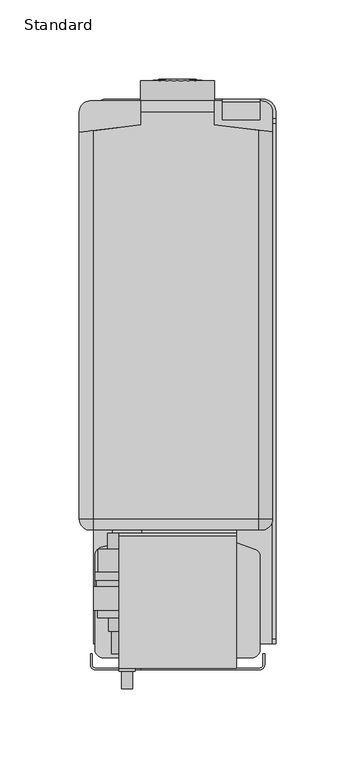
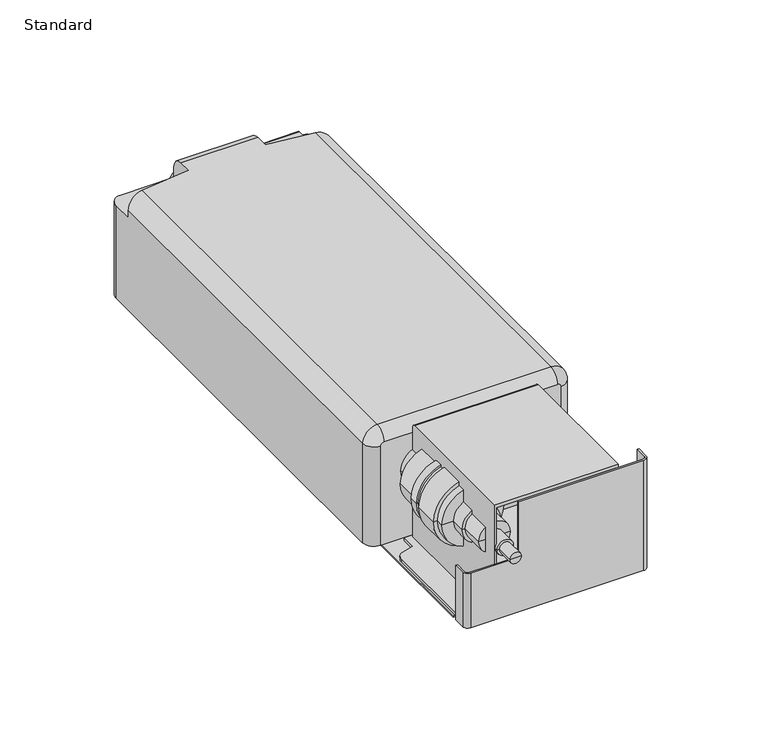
"""IFC4 building model written with IfcOpenShell, lengths in millimetres: proxy geometry, X_Soap Dispenser-Wall-Duracube-Automatic BMSD : Standard."""

import ifcopenshell
import ifcopenshell.guid

model = None  # the IFC model being written
_history = None  # IfcOwnerHistory: only IFC2X3 demands one
_inside = {}  # id of a spatial element -> (the spatial element, [elements in it])
_under = {}  # id of a project, library or spatial element -> (it, [spatial elements below it])
_declared = {}  # id of a project -> (the project, [libraries it declares])
_typed = {}  # id of a type object -> (the type object, [elements of that type])
_made_of = {}  # id of a material, layer set ... -> (it, [elements and type objects made of it])


def new_model(schema):
    """Start an empty IFC model of exactly this schema.

    Asked for "IFC4X3", IfcOpenShell would pick the latest addendum, in which some entities
    have other attributes; the version numbers below select the first issue.
    IFC2X3 requires an IfcOwnerHistory on every rooted entity: one is made here for all.
    """
    global model, _history
    if schema == "IFC4X3":
        model = ifcopenshell.file(schema_version=(4, 3, 0, 0))
    else:
        model = ifcopenshell.file(schema=schema)
    _inside.clear()
    _under.clear()
    _declared.clear()
    _typed.clear()
    _made_of.clear()
    _history = None
    if model.schema == "IFC2X3":
        org = make("IfcOrganization", Name="unknown")
        user = make(
            "IfcPersonAndOrganization",
            ThePerson=make("IfcPerson", FamilyName="unknown"),
            TheOrganization=org,
        )
        app = make(
            "IfcApplication",
            ApplicationDeveloper=org,
            Version="unknown",
            ApplicationFullName="unknown",
            ApplicationIdentifier="unknown",
        )
        _history = make(
            "IfcOwnerHistory",
            OwningUser=user,
            OwningApplication=app,
            ChangeAction="ADDED",
            CreationDate=0,
        )
    return model


def make(cls, **values):
    """One entity of the class cls with the attributes given. An attribute that is None is left unset."""
    return model.create_entity(
        cls, **{name: value for name, value in values.items() if value is not None}
    )


def rooted(cls, **values):
    """An entity with a GlobalId (a new one), such as an element, a storey or a relation."""
    return make(cls, GlobalId=ifcopenshell.guid.new(), OwnerHistory=_history, **values)


def si_unit(unit_type, name, prefix=None):
    """IfcSIUnit, for example si_unit("LENGTHUNIT", "METRE", prefix="MILLI")."""
    return make("IfcSIUnit", UnitType=unit_type, Prefix=prefix, Name=name)


def assignment(units):
    """IfcUnitAssignment: the units of a project."""
    return None if units is None else make("IfcUnitAssignment", Units=units)


def point(xyz):
    """IfcCartesianPoint."""
    return None if xyz is None else make("IfcCartesianPoint", Coordinates=xyz)


def direction(xyz):
    """IfcDirection."""
    return None if xyz is None else make("IfcDirection", DirectionRatios=xyz)


def frame(location, z_axis=None, x_axis=None):
    """IfcAxis2Placement3D, a coordinate frame: its origin and axes. An axis left out is left unset."""
    return make(
        "IfcAxis2Placement3D",
        Location=point(location),
        Axis=direction(z_axis),
        RefDirection=direction(x_axis),
    )


def frame_2d(location, x_axis=None):
    """IfcAxis2Placement2D, a coordinate frame in the plane: its origin and x axis."""
    return make(
        "IfcAxis2Placement2D", Location=point(location), RefDirection=direction(x_axis)
    )


def origin():
    """The frame at (0, 0, 0) with its axes left unset."""
    return frame((0.0, 0.0, 0.0))


def origin_with_axes():
    """The frame at (0, 0, 0) with the z axis (0, 0, 1) and the x axis (1, 0, 0) written out."""
    return frame((0.0, 0.0, 0.0), z_axis=(0.0, 0.0, 1.0), x_axis=(1.0, 0.0, 0.0))


def place(relative_to, where):
    """IfcLocalPlacement: puts the frame where relative to a parent placement (None: the world)."""
    return make(
        "IfcLocalPlacement", PlacementRelTo=relative_to, RelativePlacement=where
    )


def context(
    kind, dimensions, precision=None, world=None, true_north=None, identifier=None
):
    """IfcGeometricRepresentationContext, for example the 3D "Model" context."""
    return make(
        "IfcGeometricRepresentationContext",
        ContextIdentifier=identifier,
        ContextType=kind,
        CoordinateSpaceDimension=dimensions,
        Precision=precision,
        WorldCoordinateSystem=world,
        TrueNorth=true_north,
    )


def project(units=None, contexts=None):
    """IfcProject with its units and contexts."""
    return rooted(
        "IfcProject",
        Name="project",
        RepresentationContexts=contexts,
        UnitsInContext=assignment(units),
    )


def spatial(cls, under=None, at=None, **own):
    """A site, building, storey or space (cls), placed at a placement, below another one or the project."""
    s = rooted(cls, ObjectPlacement=at, **own)
    if under is not None:
        _under.setdefault(under.id(), (under, []))[1].append(s)
    return s


def polyline(points):
    """IfcPolyline through the points."""
    return make("IfcPolyline", Points=[point(p) for p in points])


def circle_curve(where, radius):
    """IfcCircle in the frame where."""
    return make("IfcCircle", Position=where, Radius=radius)


def ellipse_curve(where, semi_axis1, semi_axis2):
    """IfcEllipse in the frame where."""
    return make(
        "IfcEllipse", Position=where, SemiAxis1=semi_axis1, SemiAxis2=semi_axis2
    )


def trimmed(basis, trim1, trim2, sense, master):
    """IfcTrimmedCurve: the piece of a basis curve between two trims."""
    return make(
        "IfcTrimmedCurve",
        BasisCurve=basis,
        Trim1=trim1,
        Trim2=trim2,
        SenseAgreement=sense,
        MasterRepresentation=master,
    )


def segment(curve, same_sense, transition):
    """IfcCompositeCurveSegment."""
    return make(
        "IfcCompositeCurveSegment",
        Transition=transition,
        SameSense=same_sense,
        ParentCurve=curve,
    )


def composite_curve(segments, self_intersect=None):
    """IfcCompositeCurve: segments joined end to end."""
    return make("IfcCompositeCurve", Segments=segments, SelfIntersect=self_intersect)


def outline(outer, holes=None, kind="AREA"):
    """IfcArbitraryClosedProfileDef: a profile drawn as a closed curve; with holes, ...WithVoids."""
    if holes is None:
        return make("IfcArbitraryClosedProfileDef", ProfileType=kind, OuterCurve=outer)
    return make(
        "IfcArbitraryProfileDefWithVoids",
        ProfileType=kind,
        OuterCurve=outer,
        InnerCurves=holes,
    )


def extrude(swept, where, along, depth):
    """IfcExtrudedAreaSolid: the profile swept, set in the frame where, extruded along a direction by depth."""
    return make(
        "IfcExtrudedAreaSolid",
        SweptArea=swept,
        Position=where,
        ExtrudedDirection=direction(along),
        Depth=depth,
    )


def shape(context_of_items, identifier, shape_type, items):
    """IfcShapeRepresentation: the items that make up one representation, for example the "Body"."""
    return make(
        "IfcShapeRepresentation",
        ContextOfItems=context_of_items,
        RepresentationIdentifier=identifier,
        RepresentationType=shape_type,
        Items=items,
    )


def source(mapping_origin, context_of_items, identifier, shape_type, items):
    """IfcRepresentationMap: a shape defined once, which mapped items show again and again."""
    return make(
        "IfcRepresentationMap",
        MappingOrigin=mapping_origin,
        MappedRepresentation=shape(context_of_items, identifier, shape_type, items),
    )


def transform(
    local_origin,
    x_axis=None,
    y_axis=None,
    z_axis=None,
    scale=None,
    scale2=None,
    scale3=None,
    uniform=True,
):
    """IfcCartesianTransformationOperator3D, or its non-uniform kind. x_axis, y_axis, z_axis: its Axis1, 2, 3."""
    if uniform:
        return make(
            "IfcCartesianTransformationOperator3D",
            Axis1=direction(x_axis),
            Axis2=direction(y_axis),
            LocalOrigin=point(local_origin),
            Scale=scale,
            Axis3=direction(z_axis),
        )
    return make(
        "IfcCartesianTransformationOperator3DnonUniform",
        Axis1=direction(x_axis),
        Axis2=direction(y_axis),
        LocalOrigin=point(local_origin),
        Scale=scale,
        Axis3=direction(z_axis),
        Scale2=scale2,
        Scale3=scale3,
    )


def mapped(mapping_source, mapping_target):
    """IfcMappedItem: shows the shape of a source again, moved by a transform."""
    return make(
        "IfcMappedItem", MappingSource=mapping_source, MappingTarget=mapping_target
    )


def made_of(thing, what):
    """Note that an element or type object is made of a material, layer set ...; save() writes the relation."""
    if what is not None:
        _made_of.setdefault(what.id(), (what, []))[1].append(thing)
    return thing


def element(
    cls,
    number,
    at=None,
    inside=None,
    cuts=None,
    type_object=None,
    material=None,
    context=None,
    identifier="Body",
    shape_type=None,
    held_by="IfcProductDefinitionShape",
    body=None,
    shapes=None,
    **own,
):
    """One element of the class cls, such as IfcWall. Its Tag is "e" and its number.

    at: its placement. inside: the storey or other place that contains it. cuts: it is an
    opening in that element (IfcRelVoidsElement). A single representation is given by context,
    identifier, shape_type and body (its items); several are given by shapes. held_by: the class
    of the entity that holds the representations. save() writes the other relations.
    """
    e = rooted(cls, Tag="e%d" % number, ObjectPlacement=at, **own)
    if body is not None:
        shapes = [shape(context, identifier, shape_type, body)]
    if shapes is not None:
        e.Representation = make(held_by, Representations=shapes)
    if inside is not None:
        _inside.setdefault(inside.id(), (inside, []))[1].append(e)
    if cuts is not None:
        rooted(
            "IfcRelVoidsElement", RelatingBuildingElement=cuts, RelatedOpeningElement=e
        )
    if type_object is not None:
        _typed.setdefault(type_object.id(), (type_object, []))[1].append(e)
    return made_of(e, material)


def aggregate(whole, parts):
    """IfcRelAggregates: a whole, such as a stair, and the parts it consists of."""
    return rooted("IfcRelAggregates", RelatingObject=whole, RelatedObjects=parts)


def save(model, path):
    """Write the relations noted so far, then the file.

    IfcRelAggregates (storeys below a building ...), IfcRelContainedInSpatialStructure (elements
    in a storey), IfcRelDefinesByType, IfcRelAssociatesMaterial and IfcRelDeclares: one each for
    every whole, place, type object, material and project.
    """
    for whole, parts in _under.values():
        aggregate(whole, parts)
    for where, things in _inside.values():
        rooted(
            "IfcRelContainedInSpatialStructure",
            RelatedElements=things,
            RelatingStructure=where,
        )
    for kind, things in _typed.values():
        rooted("IfcRelDefinesByType", RelatedObjects=things, RelatingType=kind)
    for what, things in _made_of.values():
        rooted("IfcRelAssociatesMaterial", RelatedObjects=things, RelatingMaterial=what)
    for by, libraries in _declared.values():
        rooted("IfcRelDeclares", RelatingContext=by, RelatedDefinitions=libraries)
    model.write(path)


def plane_surface(at):
    """IfcPlane: the flat surface through the origin of the frame at, square to its z axis."""
    return make("IfcPlane", Position=at)


def cylinder_surface(at, radius):
    """IfcCylindricalSurface: all points at the distance radius from the z axis of the frame at."""
    return make("IfcCylindricalSurface", Position=at, Radius=radius)


def revolved_surface(curve, axis_point, axis_direction):
    """IfcSurfaceOfRevolution: the curve turned about the line through axis_point along axis_direction."""
    return make(
        "IfcSurfaceOfRevolution",
        SweptCurve=make("IfcArbitraryOpenProfileDef", ProfileType="CURVE", Curve=curve),
        AxisPosition=make("IfcAxis1Placement", Location=point(axis_point), Axis=direction(axis_direction)),
    )


def advanced_brep(points, edges, surfaces, faces):
    """IfcAdvancedBrep: a solid bounded by faces that lie on surfaces and meet in shared edges.

    An edge is (start, end): straight between two places in points (the first is 0);
    or (start, end, curve); or (start, end, curve, False) where it runs against its curve.
    A face is (place in surfaces, loops), or (place, loops, False) where it looks against
    its surface's normal. A loop lists edges by number (the first is 1), with a minus sign
    where the edge is run from its end to its start. The first loop is the outer one.
    """
    corners = [point(p) for p in points]
    vertices = [make("IfcVertexPoint", VertexGeometry=c) for c in corners]
    made = []
    for start, end, *more in edges:
        made.append(
            make(
                "IfcEdgeCurve",
                EdgeStart=vertices[start],
                EdgeEnd=vertices[end],
                EdgeGeometry=more[0] if more else make("IfcPolyline", Points=[corners[start], corners[end]]),
                SameSense=more[1] if len(more) > 1 else True,
            )
        )
    hull = []
    for where, loops, *sense in faces:
        bounds = []
        for j, loop in enumerate(loops):
            ring = [make("IfcOrientedEdge", EdgeElement=made[abs(k) - 1], Orientation=k > 0) for k in loop]
            bounds.append(
                make(
                    "IfcFaceOuterBound" if j == 0 else "IfcFaceBound",
                    Bound=make("IfcEdgeLoop", EdgeList=ring),
                    Orientation=True,
                )
            )
        hull.append(make("IfcAdvancedFace", Bounds=bounds, FaceSurface=surfaces[where], SameSense=sense[0] if sense else True))
    return make("IfcAdvancedBrep", Outer=make("IfcClosedShell", CfsFaces=hull))


def standard_f0378506(model_context):
    return source(origin(), model_context, "Body", "SolidModel", [
        advanced_brep(
        [(52.0496867, -180.0, 73.0), (55.0496867, -177.0, 73.0), (55.0496867, -170.0, 73.0), (54.0496867, -170.0, 73.0), (54.0496867, -177.0, 73.0), (52.0496867, -179.0, 73.0), (-23.0637667, -179.0, 73.0), (-23.0637667, -180.0, 73.0), (52.0496867, -180.0, 3.0), (-51.9503133, -180.0, 3.0), (-54.9503133, -177.0, 3.0), (-54.9503133, -170.0, 3.0), (-53.9503133, -170.0, 3.0), (-53.9503133, -177.0, 3.0), (-51.9503133, -179.0, 3.0), (52.0496867, -179.0, 3.0), (54.0496867, -177.0, 3.0), (54.0496867, -170.0, 3.0), (55.0496867, -170.0, 3.0), (55.0496867, -177.0, 3.0), (-51.9503133, -179.0, 37.5), (-23.0637667, -179.0, 37.5), (-53.9503133, -177.0, 37.5), (-53.9503133, -170.0, 37.5), (-54.9503133, -170.0, 37.5), (-54.9503133, -177.0, 37.5), (-51.9503133, -180.0, 37.5), (-23.0637667, -180.0, 37.5)],
        [
            (0, 1, circle_curve(frame((52.0496867, -177.0, 73.0), z_axis=(0.0, 0.0, 1.0), x_axis=(1.0, 0.0, 0.0)), 3.0)),
            (1, 2),
            (2, 3),
            (3, 4),
            (4, 5, circle_curve(frame((52.0496867, -177.0, 73.0), z_axis=(0.0, 0.0, -1.0), x_axis=(1.0, 0.0, 0.0)), 2.0)),
            (5, 6),
            (6, 7),
            (7, 0),
            (8, 9),
            (9, 10, circle_curve(frame((-51.9503133, -177.0, 3.0), z_axis=(0.0, 0.0, -1.0), x_axis=(1.0, 0.0, 0.0)), 3.0)),
            (10, 11),
            (11, 12),
            (12, 13),
            (13, 14, circle_curve(frame((-51.9503133, -177.0, 3.0), z_axis=(0.0, 0.0, 1.0), x_axis=(1.0, 0.0, 0.0)), 2.0)),
            (14, 15),
            (15, 16, circle_curve(frame((52.0496867, -177.0, 3.0), z_axis=(0.0, 0.0, 1.0), x_axis=(1.0, 0.0, 0.0)), 2.0)),
            (16, 17),
            (17, 18),
            (18, 19),
            (19, 8, circle_curve(frame((52.0496867, -177.0, 3.0), z_axis=(0.0, 0.0, -1.0), x_axis=(1.0, 0.0, 0.0)), 3.0)),
            (0, 8),
            (19, 1),
            (18, 2),
            (17, 3),
            (16, 4),
            (15, 5),
            (14, 20),
            (20, 21),
            (21, 6),
            (13, 22),
            (22, 20, circle_curve(frame((-51.9503133, -177.0, 37.5), z_axis=(0.0, 0.0, 1.0), x_axis=(1.0, 0.0, 0.0)), 2.0)),
            (12, 23),
            (23, 22),
            (11, 24),
            (24, 23),
            (10, 25),
            (25, 24),
            (9, 26),
            (26, 25, circle_curve(frame((-51.9503133, -177.0, 37.5), z_axis=(0.0, 0.0, -1.0), x_axis=(1.0, 0.0, 0.0)), 3.0)),
            (7, 27),
            (27, 26),
            (21, 27),
        ],
        [
            plane_surface(frame((55.0496867, -177.0, 73.0), z_axis=(0.0, 0.0, 1.0), x_axis=(0.0, 1.0, 0.0))),
            plane_surface(frame((55.0496867, -177.0, 3.0), z_axis=(0.0, 0.0, -1.0), x_axis=(0.0, -1.0, 0.0))),
            cylinder_surface(frame((52.0496867, -177.0, 3.0), z_axis=(0.0, 0.0, 1.0), x_axis=(1.0, 0.0, 0.0)), 3.0),
            plane_surface(frame((55.0496867, -177.0, 73.0), z_axis=(1.0, 0.0, 0.0), x_axis=(0.0, 0.0, -1.0))),
            plane_surface(frame((55.0496867, -170.0, 73.0), z_axis=(0.0, 1.0, 0.0), x_axis=(0.0, 0.0, -1.0))),
            plane_surface(frame((54.0496867, -170.0, 73.0), z_axis=(-1.0, 0.0, 0.0), x_axis=(0.0, 0.0, -1.0))),
            revolved_surface(polyline([(54.0496867, -177.0, 3.0), (54.0496867, -177.0, 73.0)]), (52.0496867, -177.0, 3.0), (0.0, 0.0, -1.0)),
            plane_surface(frame((52.0496867, -179.0, 73.0), z_axis=(0.0, 1.0, 0.0), x_axis=(0.0, 0.0, -1.0))),
            revolved_surface(polyline([(-49.9503133, -177.0, 3.0), (-49.9503133, -177.0, 37.5)]), (-51.9503133, -177.0, 3.0), (0.0, 0.0, -1.0)),
            plane_surface(frame((-53.9503133, -177.0, 73.0), z_axis=(1.0, 0.0, 0.0), x_axis=(0.0, 0.0, -1.0))),
            plane_surface(frame((-53.9503133, -170.0, 73.0), z_axis=(0.0, 1.0, 0.0), x_axis=(0.0, 0.0, -1.0))),
            plane_surface(frame((-54.9503133, -170.0, 73.0), z_axis=(-1.0, 0.0, 0.0), x_axis=(0.0, 0.0, -1.0))),
            cylinder_surface(frame((-51.9503133, -177.0, 3.0), z_axis=(0.0, 0.0, 1.0), x_axis=(1.0, 0.0, 0.0)), 3.0),
            plane_surface(frame((-51.9503133, -180.0, 73.0), z_axis=(0.0, -1.0, 0.0), x_axis=(0.0, 0.0, -1.0))),
            plane_surface(frame((-23.0637667, -170.0, 75.0), z_axis=(-1.0, 0.0, 0.0), x_axis=(0.0, -1.0, 0.0))),
            plane_surface(frame((-23.0637667, -170.0, 37.5), z_axis=(0.0, 0.0, 1.0), x_axis=(0.0, -1.0, 0.0))),
        ],
        [
            (0, [[1, 2, 3, 4, 5, 6, 7, 8]]),
            (1, [[9, 10, 11, 12, 13, 14, 15, 16, 17, 18, 19, 20]]),
            (2, [[-1, 21, -20, 22]]),
            (3, [[-2, -22, -19, 23]]),
            (4, [[-3, -23, -18, 24]]),
            (5, [[-4, -24, -17, 25]]),
            (6, [[-5, -25, -16, 26]]),
            (7, [[-15, 27, 28, 29, -6, -26]]),
            (8, [[-14, 30, 31, -27]]),
            (9, [[-13, 32, 33, -30]]),
            (10, [[-12, 34, 35, -32]]),
            (11, [[-11, 36, 37, -34]]),
            (12, [[-10, 38, 39, -36]]),
            (13, [[-9, -21, -8, 40, 41, -38]]),
            (14, [[42, -40, -7, -29]]),
            (15, [[-42, -28, -31, -33, -35, -37, -39, -41]]),
        ],
    ),
        extrude(outline(composite_curve([segment(trimmed(circle_curve(frame_2d((-46.9197394, -167.4794833)), 5.0), [point((-46.9197394, -172.4794833))], [point((-51.9197394, -167.4794833))], False, "CARTESIAN"), True, "CONTINUOUS"), segment(polyline([(-51.9197394, -167.4794833), (-51.9197394, -107.8366349)]), True, "CONTINUOUS"), segment(trimmed(circle_curve(frame_2d((-46.9197394, -107.8366349)), 5.0), [point((-51.9197394, -107.8366349))], [point((-48.2138346, -103.0070058))], False, "CARTESIAN"), True, "CONTINUOUS"), segment(polyline([(-48.2138346, -103.0070058), (-40.9493982, -101.0605059), (-40.9493982, -92.0), (37.1797908, -92.0), (37.1797908, -100.0461107), (48.6775275, -104.0050989)]), True, "CONTINUOUS"), segment(trimmed(circle_curve(frame_2d((47.0496867, -108.7326918)), 5.0), [point((48.6775275, -104.0050989))], [point((52.0496867, -108.7326918))], False, "CARTESIAN"), True, "CONTINUOUS"), segment(polyline([(52.0496867, -108.7326918), (52.0496867, -167.4794833)]), True, "CONTINUOUS"), segment(trimmed(circle_curve(frame_2d((47.0496867, -167.4794833)), 5.0), [point((52.0496867, -167.4794833))], [point((47.0496867, -172.4794833))], False, "CARTESIAN"), True, "CONTINUOUS"), segment(polyline([(47.0496867, -172.4794833), (-46.9197394, -172.4794833)]), True, "CONTINUOUS")], self_intersect=False)), frame((0.0, 0.0, 1.0), z_axis=(0.0, 0.0, 1.0), x_axis=(1.0, 0.0, 0.0)), (0.0, 0.0, 1.0), 2.0),
        extrude(outline(composite_curve([segment(polyline([(14.1113165, 179.474207), (54.0, 179.474207)]), True, "CONTINUOUS"), segment(trimmed(circle_curve(frame_2d((54.0, 171.474207)), 8.0), [point((54.0, 179.474207))], [point((62.0, 171.474207))], False, "CARTESIAN"), True, "CONTINUOUS"), segment(polyline([(62.0, 171.474207), (62.0, -163.6786842), (-53.0, -163.6786842), (-53.0, 171.474207)]), True, "CONTINUOUS"), segment(trimmed(circle_curve(frame_2d((-45.0, 171.474207)), 8.0), [point((-53.0, 171.474207))], [point((-45.0, 179.474207))], False, "CARTESIAN"), True, "CONTINUOUS"), segment(polyline([(-45.0, 179.474207), (-14.1113165, 179.474207), (-14.1113165, 189.0)]), True, "CONTINUOUS"), segment(trimmed(circle_curve(frame_2d((-11.1113165, 189.0)), 3.0), [point((-14.1113165, 189.0))], [point((-11.1113165, 192.0))], False, "CARTESIAN"), True, "CONTINUOUS"), segment(polyline([(-11.1113165, 192.0), (11.1113165, 192.0)]), True, "CONTINUOUS"), segment(trimmed(circle_curve(frame_2d((11.1113165, 189.0)), 3.0), [point((11.1113165, 192.0))], [point((14.1113165, 189.0))], False, "CARTESIAN"), True, "CONTINUOUS"), segment(polyline([(14.1113165, 189.0), (14.1113165, 179.474207)]), True, "CONTINUOUS")], self_intersect=False)), origin_with_axes(), (0.0, 0.0, 1.0), 1.0),
        extrude(outline(composite_curve([segment(polyline([(178.474207, 1.0), (178.474207, 63.3136562), (166.474207, 63.3136562), (166.474207, 64.3136562), (177.974207, 64.3136562)]), True, "CONTINUOUS"), segment(trimmed(circle_curve(frame_2d((177.974207, 62.8136562)), 1.5), [point((177.974207, 64.3136562))], [point((179.474207, 62.8136562))], False, "CARTESIAN"), True, "CONTINUOUS"), segment(polyline([(179.474207, 62.8136562), (179.474207, 1.5)]), True, "CONTINUOUS"), segment(trimmed(circle_curve(frame_2d((177.974207, 1.5)), 1.5), [point((179.474207, 1.5))], [point((177.974207, 0.0))], False, "CARTESIAN"), True, "CONTINUOUS"), segment(polyline([(177.974207, 0.0), (167.286782, 0.0), (167.286782, 1.0), (178.474207, 1.0)]), True, "CONTINUOUS")], self_intersect=False)), frame((28.2978962, 0.0, 0.0), z_axis=(1.0, 0.0, 0.0), x_axis=(0.0, 1.0, 0.0)), (0.0, 0.0, 1.0), 23.7021038),
        extrude(outline(composite_curve([segment(trimmed(circle_curve(frame_2d((-160.6786842, 9.0050868)), 3.0), [point((-163.6786842, 9.0050868))], [point((-160.6786842, 12.0050868))], False, "CARTESIAN"), True, "CONTINUOUS"), segment(polyline([(-160.6786842, 12.0050868), (164.286782, 12.0050868)]), True, "CONTINUOUS"), segment(trimmed(circle_curve(frame_2d((164.286782, 9.0050868)), 3.0), [point((164.286782, 12.0050868))], [point((167.286782, 9.0050868))], False, "CARTESIAN"), True, "CONTINUOUS"), segment(polyline([(167.286782, 9.0050868), (167.286782, 0.0), (-163.6786842, 0.0), (-163.6786842, 9.0050868)]), True, "CONTINUOUS")], self_intersect=False)), frame((60.0, 0.0, 0.0), z_axis=(1.0, 0.0, 0.0), x_axis=(0.0, 1.0, 0.0)), (0.0, 0.0, 1.0), 2.0),
        advanced_brep(
        [(-35.9984832, -179.0, 73.0), (-35.9984832, -179.0, 3.0), (-35.9984832, -96.0, 3.0), (-35.9984832, -96.0, 73.0), (-36.9984832, -96.0, 75.0), (-36.9984832, -94.0, 73.0), (-36.9984832, -94.0, 3.0), (-36.9984832, -179.0, 3.0), (-36.9984832, -179.0, 75.0), (36.1797908, -179.0, 73.0), (36.1797908, -179.0, 3.0), (37.1797908, -179.0, 3.0), (37.1797908, -179.0, 75.0), (37.1797908, -94.0, 3.0), (36.1797908, -96.0, 3.0), (37.1797908, -96.0, 75.0), (37.1797908, -94.0, 73.0), (36.1797908, -96.0, 73.0)],
        [
            (0, 1),
            (1, 2),
            (2, 3),
            (3, 0),
            (4, 5, circle_curve(frame((-36.9984832, -96.0, 73.0), z_axis=(-1.0, 0.0, 0.0), x_axis=(0.0, 1.0, 0.0)), 2.0)),
            (5, 6),
            (6, 7),
            (7, 8),
            (8, 4),
            (0, 9),
            (9, 10),
            (10, 11),
            (11, 12),
            (12, 8),
            (7, 1),
            (6, 13),
            (13, 11),
            (10, 14),
            (14, 2),
            (15, 12),
            (13, 16),
            (16, 15, circle_curve(frame((37.1797908, -96.0, 73.0), z_axis=(1.0, 0.0, 0.0), x_axis=(0.0, 1.0, 0.0)), 2.0)),
            (15, 4),
            (3, 17),
            (17, 9),
            (14, 17),
            (5, 16),
        ],
        [
            plane_surface(frame((-35.9984832, -96.0, 75.0), z_axis=(1.0, 0.0, 0.0), x_axis=(0.0, 0.0, 1.0))),
            plane_surface(frame((-36.9984832, -96.0, 75.0), z_axis=(-1.0, 0.0, 0.0), x_axis=(0.0, 0.0, -1.0))),
            plane_surface(frame((-35.9984832, -179.0, 73.0), z_axis=(0.0, -1.0, 0.0), x_axis=(-1.0, 0.0, 0.0))),
            plane_surface(frame((-35.9984832, -179.0, 3.0), z_axis=(0.0, 0.0, -1.0), x_axis=(-1.0, 0.0, 0.0))),
            plane_surface(frame((37.1797908, -180.0, 75.0), z_axis=(1.0, 0.0, 0.0), x_axis=(0.0, -1.0, 0.0))),
            plane_surface(frame((37.1797908, -96.0, 75.0), z_axis=(0.0, 0.0, 1.0), x_axis=(-1.0, 0.0, 0.0))),
            plane_surface(frame((37.1797908, -179.0, 73.0), z_axis=(0.0, 0.0, -1.0), x_axis=(-1.0, 0.0, 0.0))),
            plane_surface(frame((37.1797908, -96.0, 73.0), z_axis=(0.0, -1.0, 0.0), x_axis=(-1.0, 0.0, 0.0))),
            plane_surface(frame((37.1797908, -94.0, 3.0), z_axis=(0.0, 1.0, 0.0), x_axis=(-1.0, 0.0, 0.0))),
            cylinder_surface(frame((-36.9984832, -96.0, 73.0), z_axis=(1.0, 0.0, 0.0), x_axis=(0.0, 1.0, 0.0)), 2.0),
            plane_surface(frame((36.1797908, -96.0, 75.0), z_axis=(-1.0, 0.0, 0.0), x_axis=(0.0, 0.0, -1.0))),
        ],
        [
            (0, [[1, 2, 3, 4]]),
            (1, [[5, 6, 7, 8, 9]]),
            (2, [[-1, 10, 11, 12, 13, 14, -8, 15]]),
            (3, [[-2, -15, -7, 16, 17, -12, 18, 19]]),
            (4, [[20, -13, -17, 21, 22]]),
            (5, [[-20, 23, -9, -14]]),
            (6, [[-4, 24, 25, -10]]),
            (7, [[-3, -19, 26, -24]]),
            (8, [[-21, -16, -6, 27]]),
            (9, [[-22, -27, -5, -23]]),
            (10, [[-18, -11, -25, -26]]),
        ],
    ),
        advanced_brep(
        [(-19.512913, -94.0, 47.65625), (-44.1960982, -94.0, 47.65625), (-40.9493982, -94.0, 47.65625), (-22.759613, -94.0, 47.65625), (-19.512913, -104.0, 47.65625), (-44.1960982, -104.0, 47.65625), (-13.5082634, -104.0, 47.65625), (-50.2007478, -104.0, 47.65625), (-13.5082634, -118.5738192, 47.65625), (-50.2007478, -118.5738192, 47.65625), (-11.6579934, -118.5738192, 47.65625), (-52.0510177, -118.5738192, 47.65625), (-11.6579934, -123.5738192, 47.65625), (-52.0510177, -123.5738192, 47.65625), (-12.7751375, -123.5738192, 47.65625), (-50.9338736, -123.5738192, 47.65625), (-12.7751375, -127.6506151, 47.65625), (-50.9338736, -127.6506151, 47.65625), (-10.8899569, -127.6506151, 47.65625), (-52.8190543, -127.6506151, 47.65625), (-10.8899569, -142.6506151, 47.65625), (-52.8190543, -142.6506151, 47.65625), (-13.1940666, -142.6506151, 47.65625), (-50.5149446, -142.6506151, 47.65625), (-13.1940666, -147.200637, 47.65625), (-50.5149446, -147.200637, 47.65625), (-20.350771, -147.200637, 47.65625), (-43.3582401, -147.200637, 47.65625), (-20.350771, -155.9283253, 47.65625), (-43.3582401, -155.9283253, 47.65625), (-22.2359517, -155.9283253, 47.65625), (-41.4730595, -155.9283253, 47.65625), (-22.2359517, -169.9249192, 47.65625), (-41.4730595, -169.9249192, 47.65625), (-26.9062858, -169.9249192, 47.65625), (-36.8027254, -169.9249192, 47.65625), (-26.9062858, -181.0963603, 47.65625), (-36.8027254, -181.0963603, 47.65625), (-28.3330731, -181.0963603, 47.65625), (-35.3759381, -181.0963603, 47.65625), (-28.3330731, -192.0, 47.65625), (-35.3759381, -192.0, 47.65625), (-31.8545056, -192.0, 47.65625), (-22.759613, -92.0, 47.65625), (-40.9493982, -92.0, 47.65625), (-31.8545056, -92.0, 47.65625)],
        [
            (0, 1, circle_curve(frame((-31.8545056, -94.0, 47.65625), z_axis=(0.0, 1.0, 0.0), x_axis=(-1.0, 0.0, 0.0)), 12.3415926)),
            (1, 2),
            (2, 3, circle_curve(frame((-31.8545056, -94.0, 47.65625), z_axis=(0.0, -1.0, 0.0), x_axis=(-1.0, 0.0, 0.0)), 9.0948926)),
            (3, 0),
            (1, 0, circle_curve(frame((-31.8545056, -94.0, 47.65625), z_axis=(0.0, 1.0, 0.0), x_axis=(-1.0, 0.0, 0.0)), 12.3415926)),
            (3, 2, circle_curve(frame((-31.8545056, -94.0, 47.65625), z_axis=(0.0, -1.0, 0.0), x_axis=(-1.0, 0.0, 0.0)), 9.0948926)),
            (4, 5, circle_curve(frame((-31.8545056, -104.0, 47.65625), z_axis=(0.0, 1.0, 0.0), x_axis=(-1.0, 0.0, 0.0)), 12.3415926)),
            (5, 1),
            (0, 4),
            (5, 4, circle_curve(frame((-31.8545056, -104.0, 47.65625), z_axis=(0.0, 1.0, 0.0), x_axis=(-1.0, 0.0, 0.0)), 12.3415926)),
            (6, 7, circle_curve(frame((-31.8545056, -104.0, 47.65625), z_axis=(0.0, 1.0, 0.0), x_axis=(-1.0, 0.0, 0.0)), 18.3462422)),
            (7, 5),
            (4, 6),
            (7, 6, circle_curve(frame((-31.8545056, -104.0, 47.65625), z_axis=(0.0, 1.0, 0.0), x_axis=(-1.0, 0.0, 0.0)), 18.3462422)),
            (8, 9, circle_curve(frame((-31.8545056, -118.5738192, 47.65625), z_axis=(0.0, 1.0, 0.0), x_axis=(-1.0, 0.0, 0.0)), 18.3462422)),
            (9, 7),
            (6, 8),
            (9, 8, circle_curve(frame((-31.8545056, -118.5738192, 47.65625), z_axis=(0.0, 1.0, 0.0), x_axis=(-1.0, 0.0, 0.0)), 18.3462422)),
            (10, 11, circle_curve(frame((-31.8545056, -118.5738192, 47.65625), z_axis=(0.0, 1.0, 0.0), x_axis=(-1.0, 0.0, 0.0)), 20.1965122)),
            (11, 9),
            (8, 10),
            (11, 10, circle_curve(frame((-31.8545056, -118.5738192, 47.65625), z_axis=(0.0, 1.0, 0.0), x_axis=(-1.0, 0.0, 0.0)), 20.1965122)),
            (12, 13, circle_curve(frame((-31.8545056, -123.5738192, 47.65625), z_axis=(0.0, 1.0, 0.0), x_axis=(-1.0, 0.0, 0.0)), 20.1965122)),
            (13, 11),
            (10, 12),
            (13, 12, circle_curve(frame((-31.8545056, -123.5738192, 47.65625), z_axis=(0.0, 1.0, 0.0), x_axis=(-1.0, 0.0, 0.0)), 20.1965122)),
            (14, 15, circle_curve(frame((-31.8545056, -123.5738192, 47.65625), z_axis=(0.0, 1.0, 0.0), x_axis=(-1.0, 0.0, 0.0)), 19.079368)),
            (15, 13),
            (12, 14),
            (15, 14, circle_curve(frame((-31.8545056, -123.5738192, 47.65625), z_axis=(0.0, 1.0, 0.0), x_axis=(-1.0, 0.0, 0.0)), 19.079368)),
            (16, 17, circle_curve(frame((-31.8545056, -127.6506151, 47.65625), z_axis=(0.0, 1.0, 0.0), x_axis=(-1.0, 0.0, 0.0)), 19.079368)),
            (17, 15),
            (14, 16),
            (17, 16, circle_curve(frame((-31.8545056, -127.6506151, 47.65625), z_axis=(0.0, 1.0, 0.0), x_axis=(-1.0, 0.0, 0.0)), 19.079368)),
            (18, 19, circle_curve(frame((-31.8545056, -127.6506151, 47.65625), z_axis=(0.0, 1.0, 0.0), x_axis=(-1.0, 0.0, 0.0)), 20.9645487)),
            (19, 17),
            (16, 18),
            (19, 18, circle_curve(frame((-31.8545056, -127.6506151, 47.65625), z_axis=(0.0, 1.0, 0.0), x_axis=(-1.0, 0.0, 0.0)), 20.9645487)),
            (20, 21, circle_curve(frame((-31.8545056, -142.6506151, 47.65625), z_axis=(0.0, 1.0, 0.0), x_axis=(-1.0, 0.0, 0.0)), 20.9645487)),
            (21, 19),
            (18, 20),
            (21, 20, circle_curve(frame((-31.8545056, -142.6506151, 47.65625), z_axis=(0.0, 1.0, 0.0), x_axis=(-1.0, 0.0, 0.0)), 20.9645487)),
            (22, 23, circle_curve(frame((-31.8545056, -142.6506151, 47.65625), z_axis=(0.0, 1.0, 0.0), x_axis=(-1.0, 0.0, 0.0)), 18.660439)),
            (23, 21),
            (20, 22),
            (23, 22, circle_curve(frame((-31.8545056, -142.6506151, 47.65625), z_axis=(0.0, 1.0, 0.0), x_axis=(-1.0, 0.0, 0.0)), 18.660439)),
            (24, 25, circle_curve(frame((-31.8545056, -147.200637, 47.65625), z_axis=(0.0, 1.0, 0.0), x_axis=(-1.0, 0.0, 0.0)), 18.660439)),
            (25, 23),
            (22, 24),
            (25, 24, circle_curve(frame((-31.8545056, -147.200637, 47.65625), z_axis=(0.0, 1.0, 0.0), x_axis=(-1.0, 0.0, 0.0)), 18.660439)),
            (26, 27, circle_curve(frame((-31.8545056, -147.200637, 47.65625), z_axis=(0.0, 1.0, 0.0), x_axis=(-1.0, 0.0, 0.0)), 11.5037346)),
            (27, 25),
            (24, 26),
            (27, 26, circle_curve(frame((-31.8545056, -147.200637, 47.65625), z_axis=(0.0, 1.0, 0.0), x_axis=(-1.0, 0.0, 0.0)), 11.5037346)),
            (28, 29, circle_curve(frame((-31.8545056, -155.9283253, 47.65625), z_axis=(0.0, 1.0, 0.0), x_axis=(-1.0, 0.0, 0.0)), 11.5037346)),
            (29, 27),
            (26, 28),
            (29, 28, circle_curve(frame((-31.8545056, -155.9283253, 47.65625), z_axis=(0.0, 1.0, 0.0), x_axis=(-1.0, 0.0, 0.0)), 11.5037346)),
            (30, 31, circle_curve(frame((-31.8545056, -155.9283253, 47.65625), z_axis=(0.0, 1.0, 0.0), x_axis=(-1.0, 0.0, 0.0)), 9.6185539)),
            (31, 29),
            (28, 30),
            (31, 30, circle_curve(frame((-31.8545056, -155.9283253, 47.65625), z_axis=(0.0, 1.0, 0.0), x_axis=(-1.0, 0.0, 0.0)), 9.6185539)),
            (32, 33, circle_curve(frame((-31.8545056, -169.9249192, 47.65625), z_axis=(0.0, 1.0, 0.0), x_axis=(-1.0, 0.0, 0.0)), 9.6185539)),
            (33, 31),
            (30, 32),
            (33, 32, circle_curve(frame((-31.8545056, -169.9249192, 47.65625), z_axis=(0.0, 1.0, 0.0), x_axis=(-1.0, 0.0, 0.0)), 9.6185539)),
            (34, 35, circle_curve(frame((-31.8545056, -169.9249192, 47.65625), z_axis=(0.0, 1.0, 0.0), x_axis=(-1.0, 0.0, 0.0)), 4.9482198)),
            (35, 33),
            (32, 34),
            (35, 34, circle_curve(frame((-31.8545056, -169.9249192, 47.65625), z_axis=(0.0, 1.0, 0.0), x_axis=(-1.0, 0.0, 0.0)), 4.9482198)),
            (36, 37, circle_curve(frame((-31.8545056, -181.0963603, 47.65625), z_axis=(0.0, 1.0, 0.0), x_axis=(-1.0, 0.0, 0.0)), 4.9482198)),
            (37, 35),
            (34, 36),
            (37, 36, circle_curve(frame((-31.8545056, -181.0963603, 47.65625), z_axis=(0.0, 1.0, 0.0), x_axis=(-1.0, 0.0, 0.0)), 4.9482198)),
            (38, 39, circle_curve(frame((-31.8545056, -181.0963603, 47.65625), z_axis=(0.0, 1.0, 0.0), x_axis=(-1.0, 0.0, 0.0)), 3.5214325)),
            (39, 37),
            (36, 38),
            (39, 38, circle_curve(frame((-31.8545056, -181.0963603, 47.65625), z_axis=(0.0, 1.0, 0.0), x_axis=(-1.0, 0.0, 0.0)), 3.5214325)),
            (40, 41, circle_curve(frame((-31.8545056, -192.0, 47.65625), z_axis=(0.0, 1.0, 0.0), x_axis=(-1.0, 0.0, 0.0)), 3.5214325)),
            (41, 39),
            (38, 40),
            (41, 40, circle_curve(frame((-31.8545056, -192.0, 47.65625), z_axis=(0.0, 1.0, 0.0), x_axis=(-1.0, 0.0, 0.0)), 3.5214325)),
            (42, 41),
            (40, 42),
            (43, 44, circle_curve(frame((-31.8545056, -92.0, 47.65625), z_axis=(0.0, 1.0, 0.0), x_axis=(-1.0, 0.0, 0.0)), 9.0948926)),
            (44, 45),
            (45, 43),
            (44, 43, circle_curve(frame((-31.8545056, -92.0, 47.65625), z_axis=(0.0, 1.0, 0.0), x_axis=(-1.0, 0.0, 0.0)), 9.0948926)),
            (2, 44),
            (43, 3),
        ],
        [
            plane_surface(frame((-31.8545056, -94.0, 47.65625), z_axis=(0.0, 1.0, 0.0), x_axis=(-1.0, 0.0, 0.0))),
            cylinder_surface(frame((-31.8545056, -192.0, 47.65625), z_axis=(0.0, -1.0, 0.0), x_axis=(-1.0, 0.0, 0.0)), 12.3415926),
            plane_surface(frame((-31.8545056, -104.0, 47.65625), z_axis=(0.0, 1.0, 0.0), x_axis=(-1.0, 0.0, 0.0))),
            cylinder_surface(frame((-31.8545056, -192.0, 47.65625), z_axis=(0.0, -1.0, 0.0), x_axis=(-1.0, 0.0, 0.0)), 18.3462422),
            plane_surface(frame((-31.8545056, -118.5738192, 47.65625), z_axis=(0.0, 1.0, 0.0), x_axis=(-1.0, 0.0, 0.0))),
            cylinder_surface(frame((-31.8545056, -192.0, 47.65625), z_axis=(0.0, -1.0, 0.0), x_axis=(-1.0, 0.0, 0.0)), 20.1965122),
            plane_surface(frame((-31.8545056, -123.5738192, 47.65625), z_axis=(0.0, -1.0, 0.0), x_axis=(-1.0, 0.0, 0.0))),
            cylinder_surface(frame((-31.8545056, -192.0, 47.65625), z_axis=(0.0, -1.0, 0.0), x_axis=(-1.0, 0.0, 0.0)), 19.079368),
            plane_surface(frame((-31.8545056, -127.6506151, 47.65625), z_axis=(0.0, 1.0, 0.0), x_axis=(-1.0, 0.0, 0.0))),
            cylinder_surface(frame((-31.8545056, -192.0, 47.65625), z_axis=(0.0, -1.0, 0.0), x_axis=(-1.0, 0.0, 0.0)), 20.9645487),
            plane_surface(frame((-31.8545056, -142.6506151, 47.65625), z_axis=(0.0, -1.0, 0.0), x_axis=(-1.0, 0.0, 0.0))),
            cylinder_surface(frame((-31.8545056, -192.0, 47.65625), z_axis=(0.0, -1.0, 0.0), x_axis=(-1.0, 0.0, 0.0)), 18.660439),
            plane_surface(frame((-31.8545056, -147.200637, 47.65625), z_axis=(0.0, -1.0, 0.0), x_axis=(-1.0, 0.0, 0.0))),
            cylinder_surface(frame((-31.8545056, -192.0, 47.65625), z_axis=(0.0, -1.0, 0.0), x_axis=(-1.0, 0.0, 0.0)), 11.5037346),
            plane_surface(frame((-31.8545056, -155.9283253, 47.65625), z_axis=(0.0, -1.0, 0.0), x_axis=(-1.0, 0.0, 0.0))),
            cylinder_surface(frame((-31.8545056, -192.0, 47.65625), z_axis=(0.0, -1.0, 0.0), x_axis=(-1.0, 0.0, 0.0)), 9.6185539),
            plane_surface(frame((-31.8545056, -169.9249192, 47.65625), z_axis=(0.0, -1.0, 0.0), x_axis=(-1.0, 0.0, 0.0))),
            cylinder_surface(frame((-31.8545056, -192.0, 47.65625), z_axis=(0.0, -1.0, 0.0), x_axis=(-1.0, 0.0, 0.0)), 4.9482198),
            plane_surface(frame((-31.8545056, -181.0963603, 47.65625), z_axis=(0.0, -1.0, 0.0), x_axis=(-1.0, 0.0, 0.0))),
            cylinder_surface(frame((-31.8545056, -192.0, 47.65625), z_axis=(0.0, -1.0, 0.0), x_axis=(-1.0, 0.0, 0.0)), 3.5214325),
            plane_surface(frame((-31.8545056, -192.0, 47.65625), z_axis=(0.0, -1.0, 0.0), x_axis=(-1.0, 0.0, 0.0))),
            plane_surface(frame((-31.8545056, -92.0, 47.65625), z_axis=(0.0, 1.0, 0.0), x_axis=(-1.0, 0.0, 0.0))),
            cylinder_surface(frame((-31.8545056, -192.0, 47.65625), z_axis=(0.0, -1.0, 0.0), x_axis=(-1.0, 0.0, 0.0)), 9.0948926),
        ],
        [
            (0, [[1, 2, 3, 4]]),
            (0, [[5, -4, 6, -2]]),
            (1, [[7, 8, -1, 9]]),
            (1, [[10, -9, -5, -8]]),
            (2, [[11, 12, -7, 13]]),
            (2, [[14, -13, -10, -12]]),
            (3, [[15, 16, -11, 17]]),
            (3, [[18, -17, -14, -16]]),
            (4, [[19, 20, -15, 21]]),
            (4, [[22, -21, -18, -20]]),
            (5, [[23, 24, -19, 25]]),
            (5, [[26, -25, -22, -24]]),
            (6, [[27, 28, -23, 29]]),
            (6, [[30, -29, -26, -28]]),
            (7, [[31, 32, -27, 33]]),
            (7, [[34, -33, -30, -32]]),
            (8, [[35, 36, -31, 37]]),
            (8, [[38, -37, -34, -36]]),
            (9, [[39, 40, -35, 41]]),
            (9, [[42, -41, -38, -40]]),
            (10, [[43, 44, -39, 45]]),
            (10, [[46, -45, -42, -44]]),
            (11, [[47, 48, -43, 49]]),
            (11, [[50, -49, -46, -48]]),
            (12, [[51, 52, -47, 53]]),
            (12, [[54, -53, -50, -52]]),
            (13, [[55, 56, -51, 57]]),
            (13, [[58, -57, -54, -56]]),
            (14, [[59, 60, -55, 61]]),
            (14, [[62, -61, -58, -60]]),
            (15, [[63, 64, -59, 65]]),
            (15, [[66, -65, -62, -64]]),
            (16, [[67, 68, -63, 69]]),
            (16, [[70, -69, -66, -68]]),
            (17, [[71, 72, -67, 73]]),
            (17, [[74, -73, -70, -72]]),
            (18, [[75, 76, -71, 77]]),
            (18, [[78, -77, -74, -76]]),
            (19, [[79, 80, -75, 81]]),
            (19, [[82, -81, -78, -80]]),
            (20, [[83, -79, 84]]),
            (20, [[-84, -82, -83]]),
            (21, [[85, 86, 87]]),
            (21, [[88, -87, -86]]),
            (22, [[-3, 89, -85, 90]]),
            (22, [[-6, -90, -88, -89]]),
        ],
    ),
        advanced_brep(
        [(53.0, 178.474207, 3.0), (-55.0, 178.474207, 3.0), (-55.0, 178.474207, 61.4037243), (-23.0637667, 178.474207, 61.4037243), (-23.0637667, 178.474207, 68.0), (23.0637667, 178.474207, 68.0), (23.0637667, 178.474207, 61.4037243), (53.0, 178.474207, 61.4037243), (53.0, -92.0, 3.0), (53.0, -92.0, 66.0), (51.0, -92.0, 68.0), (-53.0, -92.0, 68.0), (-55.0, -92.0, 66.0), (-55.0, -92.0, 3.0), (60.0, 171.474207, 3.0), (60.0, -85.0, 3.0), (-62.0, -85.0, 3.0), (-62.0, 171.474207, 3.0), (60.0, 171.474207, 61.4037243), (60.0, 158.8299215, 61.4037243), (60.0, 158.8299215, 66.0), (60.0, -85.0, 66.0), (-23.0637667, 171.474207, 75.0), (23.0637667, 171.474207, 75.0), (-53.0, -85.0, 75.0), (51.0, -85.0, 75.0), (51.0, 159.9349825, 75.0), (23.0637667, 163.3651207, 75.0), (-23.0637667, 163.3651207, 75.0), (-53.0, 159.6894134, 75.0), (-62.0, 171.474207, 61.4037243), (-62.0, -85.0, 66.0), (-62.0, 158.5843524, 66.0), (-62.0, 158.5843524, 61.4037243), (-23.0637667, 163.3651207, 61.4037243), (23.0637667, 163.3651207, 61.4037243)],
        [
            (0, 1),
            (1, 2),
            (2, 3),
            (3, 4),
            (4, 5),
            (5, 6),
            (6, 7),
            (7, 0),
            (8, 9),
            (9, 10, circle_curve(frame((51.0, -92.0, 66.0), z_axis=(0.0, -1.0, 0.0), x_axis=(1.0, 0.0, 0.0)), 2.0)),
            (10, 11),
            (11, 12, circle_curve(frame((-53.0, -92.0, 66.0), z_axis=(0.0, -1.0, 0.0), x_axis=(0.0, 0.0, 1.0)), 2.0)),
            (12, 13),
            (13, 8),
            (0, 14, circle_curve(frame((53.0, 171.474207, 3.0), z_axis=(0.0, 0.0, -1.0), x_axis=(1.0, 0.0, 0.0)), 7.0)),
            (14, 15),
            (15, 8, circle_curve(frame((53.0, -85.0, 3.0), z_axis=(0.0, 0.0, -1.0), x_axis=(1.0, 0.0, 0.0)), 7.0)),
            (13, 16, circle_curve(frame((-55.0, -85.0, 3.0), z_axis=(0.0, 0.0, -1.0), x_axis=(-1.0, 0.0, 0.0)), 7.0)),
            (16, 17),
            (17, 1, circle_curve(frame((-55.0, 171.474207, 3.0), z_axis=(0.0, 0.0, -1.0), x_axis=(-1.0, 0.0, 0.0)), 7.0)),
            (7, 18, circle_curve(frame((53.0, 171.474207, 61.4037243), z_axis=(0.0, 0.0, -1.0), x_axis=(1.0, 0.0, 0.0)), 7.0)),
            (18, 14),
            (18, 19),
            (19, 20),
            (20, 21),
            (21, 15),
            (21, 9, circle_curve(frame((53.0, -85.0, 66.0), z_axis=(0.0, 0.0, -1.0), x_axis=(1.0, 0.0, 0.0)), 7.0)),
            (4, 22, circle_curve(frame((-23.0637667, 171.474207, 68.0), z_axis=(1.0, 0.0, 0.0), x_axis=(0.0, 0.0, 1.0)), 7.0)),
            (22, 23),
            (23, 5, circle_curve(frame((23.0637667, 171.474207, 68.0), z_axis=(-1.0, 0.0, 0.0), x_axis=(0.0, 0.0, 1.0)), 7.0)),
            (24, 25),
            (25, 26),
            (26, 27),
            (27, 23),
            (22, 28),
            (28, 29),
            (29, 24),
            (10, 25, circle_curve(frame((51.0, -85.0, 68.0), z_axis=(-1.0, 0.0, 0.0), x_axis=(0.0, 0.0, 1.0)), 7.0)),
            (24, 11, circle_curve(frame((-53.0, -85.0, 68.0), z_axis=(1.0, 0.0, 0.0), x_axis=(0.0, 0.0, 1.0)), 7.0)),
            (17, 30),
            (30, 2, circle_curve(frame((-55.0, 171.474207, 61.4037243), z_axis=(0.0, 0.0, -1.0), x_axis=(-1.0, 0.0, 0.0)), 7.0)),
            (16, 31),
            (31, 32),
            (32, 33),
            (33, 30),
            (12, 31, circle_curve(frame((-55.0, -85.0, 66.0), z_axis=(0.0, 0.0, -1.0), x_axis=(-1.0, 0.0, 0.0)), 7.0)),
            (25, 21, circle_curve(frame((51.0, -85.0, 66.0), z_axis=(0.0, 1.0, 0.0), x_axis=(1.0, 0.0, 0.0)), 9.0)),
            (20, 26, ellipse_curve(frame((51.0, 159.9349825, 66.0), z_axis=(-0.1218693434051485, -0.992546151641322, 0.0), x_axis=(0.9925461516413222, -0.1218693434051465, 0.0)), 9.0675884, 9.0)),
            (31, 24, circle_curve(frame((-53.0, -85.0, 66.0), z_axis=(0.0, 1.0, 0.0), x_axis=(0.0, 0.0, 1.0)), 9.0)),
            (29, 32, ellipse_curve(frame((-53.0, 159.6894134, 66.0), z_axis=(0.12186934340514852, -0.9925461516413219, 0.0), x_axis=(-0.992546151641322, -0.12186934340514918, 0.0)), 9.0675884, 9.0)),
            (33, 34),
            (34, 3),
            (6, 35),
            (35, 19),
            (28, 34),
            (27, 35),
        ],
        [
            plane_surface(frame((52.0, 178.474207, 0.0), z_axis=(0.0, 1.0, 0.0), x_axis=(0.0, 0.0, -1.0))),
            plane_surface(frame((52.0, -92.0, 0.0), z_axis=(0.0, -1.0, 0.0), x_axis=(0.0, 0.0, 1.0))),
            plane_surface(frame((52.0, 178.474207, 3.0), z_axis=(0.0, 0.0, -1.0), x_axis=(0.0, -1.0, 0.0))),
            cylinder_surface(frame((53.0, 171.474207, 3.0), z_axis=(0.0, 0.0, -1.0), x_axis=(1.0, 0.0, 0.0)), 7.0),
            plane_surface(frame((60.0, 171.474207, 3.0), z_axis=(1.0, 0.0, 0.0), x_axis=(0.0, 0.0, 1.0))),
            cylinder_surface(frame((53.0, -85.0, 3.0), z_axis=(0.0, 0.0, -1.0), x_axis=(1.0, 0.0, 0.0)), 7.0),
            cylinder_surface(frame((51.0, 171.474207, 68.0), z_axis=(1.0, 0.0, 0.0), x_axis=(0.0, 0.0, 1.0)), 7.0),
            plane_surface(frame((51.0, 171.474207, 75.0), z_axis=(0.0, 0.0, 1.0), x_axis=(-1.0, 0.0, 0.0))),
            cylinder_surface(frame((51.0, -85.0, 68.0), z_axis=(1.0, 0.0, 0.0), x_axis=(0.0, 0.0, 1.0)), 7.0),
            cylinder_surface(frame((-55.0, 171.474207, 66.0), z_axis=(0.0, 0.0, 1.0), x_axis=(-1.0, 0.0, 0.0)), 7.0),
            plane_surface(frame((-62.0, 171.474207, 66.0), z_axis=(-1.0, 0.0, 0.0), x_axis=(0.0, 0.0, -1.0))),
            cylinder_surface(frame((-55.0, -85.0, 66.0), z_axis=(0.0, 0.0, 1.0), x_axis=(-1.0, 0.0, 0.0)), 7.0),
            cylinder_surface(frame((51.0, 192.0, 66.0), z_axis=(0.0, -1.0, 0.0), x_axis=(1.0, 0.0, 0.0)), 9.0),
            revolved_surface(trimmed(ellipse_curve(frame((53.0, -85.0, 66.0), z_axis=(0.0, 0.0, -1.0), x_axis=(1.0, 0.0, 0.0)), 7.0, 7.0), [point((60.0, -85.0, 66.0))], [point((53.0, -92.0, 66.0))], True, "CARTESIAN"), (51.0, 192.0, 66.0), (0.0, -1.0, 0.0)),
            cylinder_surface(frame((-53.0, 192.0, 66.0), z_axis=(0.0, -1.0, 0.0), x_axis=(0.0, 0.0, 1.0)), 9.0),
            revolved_surface(trimmed(ellipse_curve(frame((-53.0, -85.0, 68.0), z_axis=(1.0, 0.0, 0.0), x_axis=(0.0, 0.0, 1.0)), 7.0, 7.0), [point((-53.0, -85.0, 75.0))], [point((-53.0, -92.0, 68.0))], True, "CARTESIAN"), (-53.0, 192.0, 66.0), (0.0, -1.0, 0.0)),
            plane_surface(frame((-26.2937944, 162.9685231, 61.4037243), z_axis=(0.0, 0.0, 1.0), x_axis=(-0.9925461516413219, -0.12186934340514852, 0.0))),
            plane_surface(frame((-62.0, 158.5843524, 75.0), z_axis=(-0.12186934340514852, 0.9925461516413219, 0.0), x_axis=(0.0, 0.0, -1.0))),
            plane_surface(frame((-23.0637667, 163.3651207, 75.0), z_axis=(-1.0, 0.0, 0.0), x_axis=(0.0, 0.0, -1.0))),
            plane_surface(frame((23.0637667, 192.0, 75.0), z_axis=(1.0, 0.0, 0.0), x_axis=(0.0, 0.0, -1.0))),
            plane_surface(frame((23.0637667, 163.3651207, 75.0), z_axis=(0.1218693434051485, 0.992546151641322, 0.0), x_axis=(0.0, 0.0, -1.0))),
        ],
        [
            (0, [[1, 2, 3, 4, 5, 6, 7, 8]]),
            (1, [[9, 10, 11, 12, 13, 14]]),
            (2, [[15, 16, 17, -14, 18, 19, 20, -1]]),
            (3, [[-15, -8, 21, 22]]),
            (4, [[-16, -22, 23, 24, 25, 26]]),
            (5, [[-17, -26, 27, -9]]),
            (6, [[-5, 28, 29, 30]]),
            (7, [[31, 32, 33, 34, -29, 35, 36, 37]]),
            (8, [[-11, 38, -31, 39]]),
            (9, [[-20, 40, 41, -2]]),
            (10, [[-19, 42, 43, 44, 45, -40]]),
            (11, [[-13, 46, -42, -18]]),
            (12, [[47, -25, 48, -32]]),
            (13, [[-27, -47, -38, -10]]),
            (14, [[49, -37, 50, -43]]),
            (15, [[-12, -39, -49, -46]]),
            (16, [[51, 52, -3, -41, -45]]),
            (16, [[53, 54, -23, -21, -7]]),
            (17, [[-51, -44, -50, -36, 55]]),
            (18, [[-55, -35, -28, -4, -52]]),
            (19, [[56, -53, -6, -30, -34]]),
            (20, [[-56, -33, -48, -24, -54]]),
        ],
    ),
        advanced_brep(
        [(23.1980148, 191.0936038, 37.5), (-23.1980148, 191.0936038, 37.5), (0.0, 192.0, 37.5), (23.1980148, 178.474207, 37.5), (-23.1980148, 178.474207, 37.5), (0.0, 178.474207, 37.5)],
        [
            (0, 1, circle_curve(frame((0.0, 191.0936038, 37.5), z_axis=(0.0, 1.0, 0.0), x_axis=(-1.0, 0.0, 0.0)), 23.1980148)),
            (1, 2, circle_curve(frame((0.0, -105.314475, 37.5), z_axis=(0.0, 0.0, -1.0), x_axis=(0.0, 1.0, 0.0)), 297.314475)),
            (2, 0, circle_curve(frame((0.0, -105.314475, 37.5), z_axis=(0.0, 0.0, -1.0), x_axis=(0.0, 1.0, 0.0)), 297.314475)),
            (1, 0, circle_curve(frame((0.0, 191.0936038, 37.5), z_axis=(0.0, 1.0, 0.0), x_axis=(-1.0, 0.0, 0.0)), 23.1980148)),
            (3, 4, circle_curve(frame((0.0, 178.474207, 37.5), z_axis=(0.0, 1.0, 0.0), x_axis=(-1.0, 0.0, 0.0)), 23.1980148)),
            (4, 1),
            (0, 3),
            (4, 3, circle_curve(frame((0.0, 178.474207, 37.5), z_axis=(0.0, 1.0, 0.0), x_axis=(-1.0, 0.0, 0.0)), 23.1980148)),
            (5, 4),
            (3, 5),
        ],
        [
            revolved_surface(trimmed(ellipse_curve(frame((0.0, -105.314475, 37.5), z_axis=(0.0, 0.0, 1.0), x_axis=(0.0, 1.0, 0.0)), 297.314475, 297.314475), [point((0.0, 192.0, 37.5))], [point((-23.1980148, 191.0936038, 37.5))], True, "CARTESIAN"), (0.0, 178.474207, 37.5), (0.0, -1.0, 0.0)),
            cylinder_surface(frame((0.0, 178.474207, 37.5), z_axis=(0.0, -1.0, 0.0), x_axis=(-1.0, 0.0, 0.0)), 23.1980148),
            plane_surface(frame((0.0, 178.474207, 37.5), z_axis=(0.0, -1.0, 0.0), x_axis=(-1.0, 0.0, 0.0))),
        ],
        [
            (0, [[1, 2, 3]]),
            (0, [[4, -3, -2]]),
            (1, [[5, 6, -1, 7]]),
            (1, [[8, -7, -4, -6]]),
            (2, [[9, -5, 10]]),
            (2, [[-10, -8, -9]]),
        ],
    ),
    ])


if __name__ == "__main__":
    model = new_model("IFC4")
    model_context = context("Model", 3, world=origin())
    ifc_project = project(units=[si_unit("LENGTHUNIT", "METRE", prefix="MILLI")], contexts=[model_context])
    site = spatial("IfcSite", under=ifc_project)
    building = spatial("IfcBuilding", under=site)
    placement = place(None, origin())
    standard_shape = standard_f0378506(model_context)
    element("IfcBuildingElementProxy", 1, Name="X_Soap Dispenser-Wall-Duracube-Automatic BMSD : Standard", ObjectType="X_Soap Dispenser-Wall-Duracube-Automatic BMSD : Standard", at=placement, inside=building, context=model_context, shape_type="MappedRepresentation", body=[
        mapped(standard_shape, transform((0.0, 0.0, 0.0), x_axis=(1.0, 0.0, 0.0), y_axis=(0.0, 1.0, 0.0), z_axis=(0.0, 0.0, 1.0))),
    ])
    save(model, "model.ifc")
